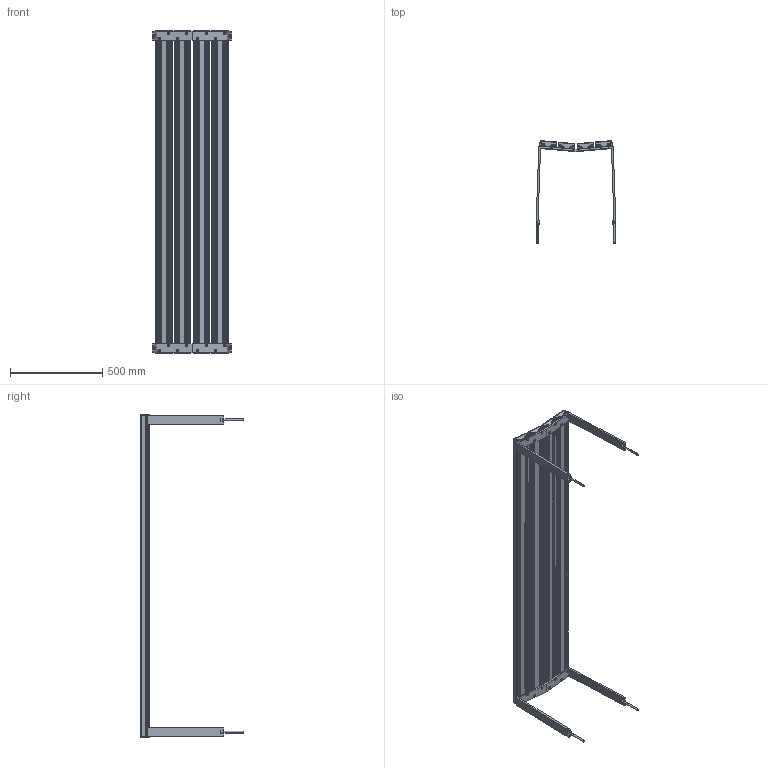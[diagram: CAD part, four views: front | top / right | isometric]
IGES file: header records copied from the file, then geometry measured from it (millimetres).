
Start section: SolidWorks IGES file using analytic representation for surfaces
Global section: file name: C:\SANTACOLE_PDM\Proyectos Catálogo\PROD-P13-073 -- BANCO HARPO\6_Técnico comercial\3D WEB\Banqueta Harpo 175 cm Aluminio - Low Bench Harpo 175cm Aluminium.IGS; native system: SolidWorks 2013; preprocessor: SolidWorks 2013; author: jordi.munoz; date: 150326.182324; units: millimetre
Bounding box: 433 x 554.28 x 1754.33 mm (x, y, z)
Volume: 6010411.3 mm3; surface area: 4854293.9 mm2
Topology: 70 solids, 70 shells, 2392 faces, 6148 edges, 3880 vertices
Faces by surface type: revolution 1532, plane 828, bspline 32
